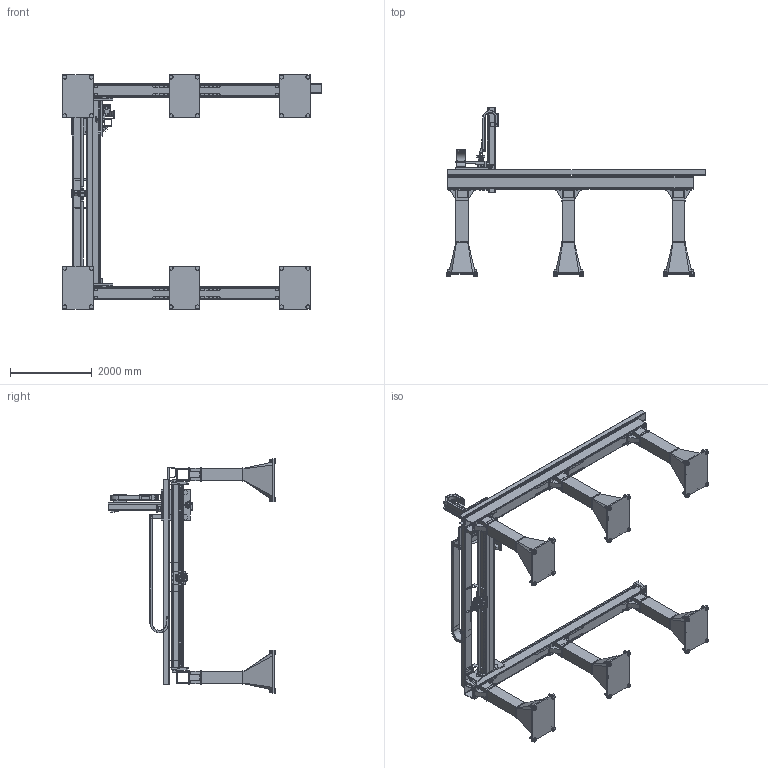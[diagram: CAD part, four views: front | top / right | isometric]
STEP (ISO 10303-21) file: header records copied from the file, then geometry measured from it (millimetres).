
FILE_DESCRIPTION (( 'STEP AP203' ), '1' );
FILE_NAME ('FP-5_V4_10-00000624-001.STEP', '2021-07-12T05:16:55', ( '' ), ( '' ), 'SwSTEP 2.0', 'SolidWorks 2019', '' );
FILE_SCHEMA (( 'CONFIG_CONTROL_DESIGN' ));
Length unit declared in the file: millimetre
Products named in the file (31): 10-00000624-034_.; 10-00000624-041_10462680; 10-00000624-035_10416257__asm; 10-00000624-014_.; 10-00000624-008_.; 10-00000624-012_.; 10-00000624-003_.; 10-00000624-006_.; 10-00000624-046_.; 10-00000624-033_.; FP-5_V4_10-00000624-001; 10-00000624-016_.; 10-00000624-037_NEUER ARTIKEL; 10-00000624-038_.; 10-00000615-004_.; 10-00000624-004_.; 10-00000624-042_10417711__asm; 10-00000624-013_NEUER ARTIKEL; 10-00000624-017_.; 10-00000624-021_.; 10-00000624-011_NEUER ARTIKEL; 10-00000624-043_.; 10-00000624-032_10185047; 10-00000624-002_all; 10-00000624-044_.; 10-00000624-010_NEUER ARTIKEL; 10-00000624-005_.; 10-00000624-009_NEUER ARTIKEL; 10-00000624-007_alternativ; 10-00000624-036_NEUER ARTIKEL; 10-00000624-045_.
Assembly tree (51 placements, depth 4):
  FP-5_V4_10-00000624-001
    10-00000624-002_all
      10-00000624-003_.
      10-00000624-014_.  x6
      10-00000624-004_.
      10-00000624-005_.
      10-00000624-033_.  x4
      10-00000624-006_.  x6
      10-00000624-032_10185047  x6
    10-00000624-007_alternativ
      10-00000624-008_.
      10-00000624-009_NEUER ARTIKEL
      10-00000624-010_NEUER ARTIKEL
      10-00000624-011_NEUER ARTIKEL
      10-00000624-034_.  x3
      10-00000624-012_.
      10-00000624-013_NEUER ARTIKEL
      10-00000624-035_10416257__asm
      10-00000624-036_NEUER ARTIKEL
      10-00000624-037_NEUER ARTIKEL
      10-00000624-041_10462680
    10-00000624-016_.
      10-00000624-046_.
        10-00000624-045_.
        10-00000624-042_10417711__asm  x2
      10-00000624-038_.
      10-00000624-021_.
    10-00000624-017_.
      10-00000624-043_.
      10-00000624-044_.
    10-00000615-004_.
Bounding box: 6325 x 4104.67 x 5725.02 mm (x, y, z)
Volume: 681677389 mm3; surface area: 109689005.6 mm2
Topology: 65 solids, 124 shells, 6500 faces, 16182 edges, 10289 vertices
Faces by surface type: plane 3316, cylinder 2630, cone 542, torus 12
Entity records: 126567 total; most frequent: CARTESIAN_POINT 24974, DIRECTION 20472, ORIENTED_EDGE 19922, EDGE_CURVE 9979, AXIS2_PLACEMENT_3D 7275, VERTEX_POINT 6437, VECTOR 5922, LINE 5922
